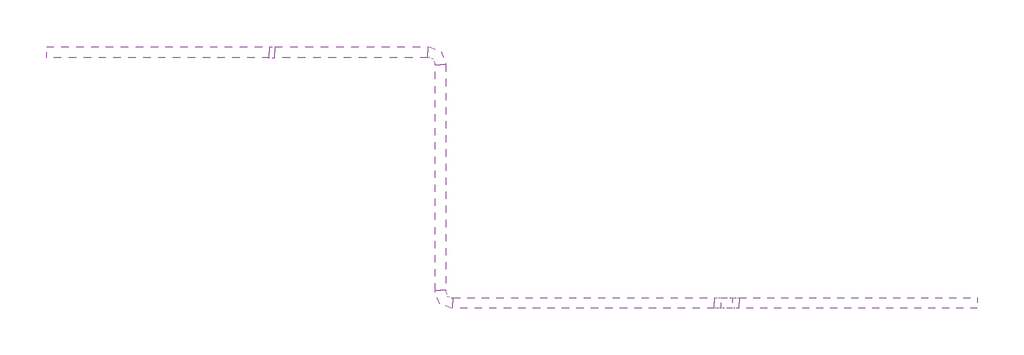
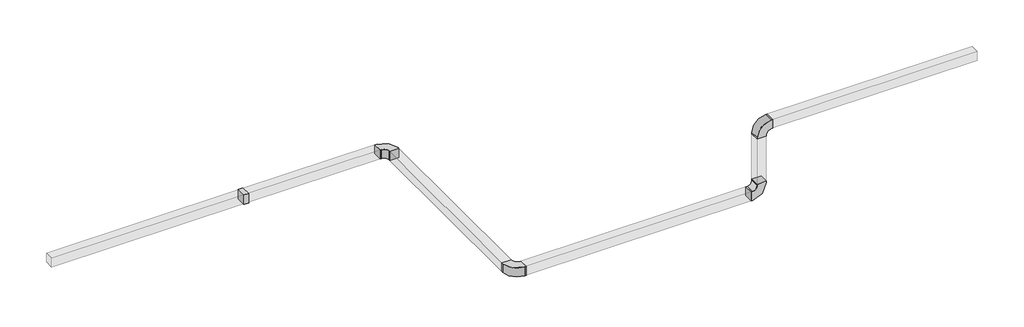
# One storey: 6 duct segments, 4 duct fittings, 1 damper.
"""IFC4 building model written with IfcOpenShell, lengths in millimetres."""

from ifc_helpers import new_model, si_unit, frame, origin, place, context, project, spatial, polyline, outline, extrude, transform, mapped, element, save
from components import damper_0c93a5dd, duct_fitting_99cd3f61

model = new_model("IFC4")

# Units and contexts
model_context = context("Model", 3, world=origin())
ifc_project = project(units=[si_unit("LENGTHUNIT", "METRE", prefix="MILLI")], contexts=[model_context])

# Site, building, storey
site = spatial("IfcSite", under=ifc_project)
building = spatial("IfcBuilding", under=site)
storey = spatial("IfcBuildingStorey", under=building, Name="Уровень 1", Elevation=0.0)

# Damper
placement = place(None, origin())
damper_shape = damper_0c93a5dd(model_context)
element("IfcDamper", 1, ObjectType="M_Противопожарный демпфер - Прямоугольный - Простой : Стандартное", at=placement, inside=storey, context=model_context, shape_type="MappedRepresentation", body=[
    mapped(damper_shape, transform((-9775.4202347, 9458.2450975, 2750.0), x_axis=(-1.0, 0.0, 0.0), y_axis=(0.0, 1.0, 0.0), z_axis=(0.0, 0.0, -1.0))),
])

# Duct fittings
duct_fitting_shape = duct_fitting_99cd3f61(model_context)
element("IfcDuctFitting", 2, ObjectType="Отвод прямоугольного сечения : Стандартное", at=placement, inside=storey, context=model_context, shape_type="MappedRepresentation", body=[
    mapped(duct_fitting_shape, transform((-5076.4186496, 9458.2450975, 2750.0), x_axis=(0.0, 1.0, 0.0), y_axis=(-1.0, 0.0, 0.0), z_axis=(0.0, 0.0, 1.0))),
])
element("IfcDuctFitting", 3, ObjectType="Отвод прямоугольного сечения : Стандартное", at=placement, inside=storey, context=model_context, shape_type="MappedRepresentation", body=[
    mapped(duct_fitting_shape, transform((-5076.4186496, 2458.2450975, 2750.0), x_axis=(0.0, -1.0, 0.0), y_axis=(1.0, 0.0, 0.0), z_axis=(0.0, 0.0, 1.0))),
])
element("IfcDuctFitting", 4, ObjectType="Отвод прямоугольного сечения : Стандартное", at=placement, inside=storey, context=model_context, shape_type="MappedRepresentation", body=[
    mapped(duct_fitting_shape, transform((2923.5813504, 2458.2450975, 2750.0), x_axis=(1.0, 0.0, 0.0), y_axis=(0.0, 0.0, 1.0), z_axis=(0.0, -1.0, 0.0))),
])
element("IfcDuctFitting", 5, ObjectType="Отвод прямоугольного сечения : Стандартное", at=placement, inside=storey, context=model_context, shape_type="MappedRepresentation", body=[
    mapped(duct_fitting_shape, transform((2923.5813504, 2458.2450975, 5000.0), x_axis=(0.0, 0.0, 1.0), y_axis=(1.0, 0.0, 0.0), z_axis=(0.0, 1.0, 0.0))),
])

# Duct segments
element("IfcDuctSegment", 6, ObjectType="Закругленные отводы / тройники", at=placement, inside=storey, context=model_context, shape_type="SweptSolid", body=[
    extrude(outline(polyline([(-9700.4202347, 9308.2450975), (-9700.4202347, 9608.2450975), (-5426.4186496, 9608.2450975), (-5426.4186496, 9308.2450975), (-9700.4202347, 9308.2450975)])), frame((0.0, 0.0, 2600.0), z_axis=(0.0, 0.0, 1.0), x_axis=(1.0, 0.0, 0.0)), (0.0, 0.0, 1.0), 300.0),
])
element("IfcDuctSegment", 7, ObjectType="Закругленные отводы / тройники", at=placement, inside=storey, context=model_context, shape_type="SweptSolid", body=[
    extrude(outline(polyline([(-5226.4186496, 9108.2450975), (-4926.4186496, 9108.2450975), (-4926.4186496, 2808.2450975), (-5226.4186496, 2808.2450975), (-5226.4186496, 9108.2450975)])), frame((0.0, 0.0, 2600.0), z_axis=(0.0, 0.0, 1.0), x_axis=(1.0, 0.0, 0.0)), (0.0, 0.0, 1.0), 300.0),
])
element("IfcDuctSegment", 8, ObjectType="Закругленные отводы / тройники", at=placement, inside=storey, context=model_context, shape_type="SweptSolid", body=[
    extrude(outline(polyline([(-4726.4186496, 2308.2450975), (-4726.4186496, 2608.2450975), (2573.5813504, 2608.2450975), (2573.5813504, 2308.2450975), (-4726.4186496, 2308.2450975)])), frame((0.0, 0.0, 2600.0), z_axis=(0.0, 0.0, 1.0), x_axis=(1.0, 0.0, 0.0)), (0.0, 0.0, 1.0), 300.0),
])
element("IfcDuctSegment", 9, ObjectType="Закругленные отводы / тройники", at=placement, inside=storey, context=model_context, shape_type="SweptSolid", body=[
    extrude(outline(polyline([(3273.5813504, 2308.2450975), (3273.5813504, 2608.2450975), (9923.5813504, 2608.2450975), (9923.5813504, 2308.2450975), (3273.5813504, 2308.2450975)])), frame((0.0, 0.0, 4850.0), z_axis=(0.0, 0.0, 1.0), x_axis=(1.0, 0.0, 0.0)), (0.0, 0.0, 1.0), 300.0),
])
element("IfcDuctSegment", 10, ObjectType="Закругленные отводы / тройники", at=placement, inside=storey, context=model_context, shape_type="SweptSolid", body=[
    extrude(outline(polyline([(3073.5813504, 2608.2450975), (3073.5813504, 2308.2450975), (2773.5813504, 2308.2450975), (2773.5813504, 2608.2450975), (3073.5813504, 2608.2450975)])), frame((0.0, 0.0, 3100.0), z_axis=(0.0, 0.0, 1.0), x_axis=(1.0, 0.0, 0.0)), (0.0, 0.0, 1.0), 1550.0),
])
element("IfcDuctSegment", 11, ObjectType="Закругленные отводы / тройники", at=placement, inside=storey, context=model_context, shape_type="SweptSolid", body=[
    extrude(outline(polyline([(-16076.4186496, 9308.2450975), (-16076.4186496, 9608.2450975), (-9850.4202347, 9608.2450975), (-9850.4202347, 9308.2450975), (-16076.4186496, 9308.2450975)])), frame((0.0, 0.0, 2600.0), z_axis=(0.0, 0.0, 1.0), x_axis=(1.0, 0.0, 0.0)), (0.0, 0.0, 1.0), 300.0),
])

save(model, "model.ifc")
